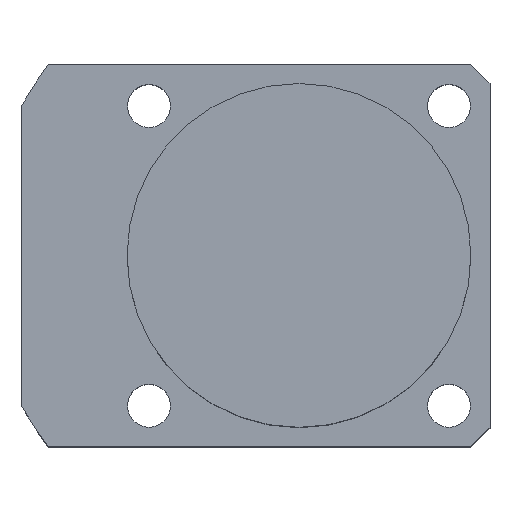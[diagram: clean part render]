
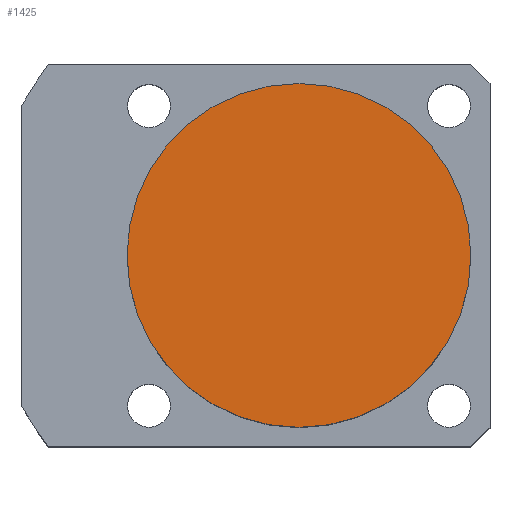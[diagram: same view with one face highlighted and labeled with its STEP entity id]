
A CAD part, top view. The second image highlights one B-rep face of the part: STEP entity #1425.
In plain terms, the highlighted planar face has unit normal (0, 0, 1).
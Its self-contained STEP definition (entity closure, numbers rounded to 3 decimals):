
#1367=CARTESIAN_POINT('',(-0.0,18.0,33.5));
#1368=VERTEX_POINT('',#1367);
#1375=CARTESIAN_POINT('',(18.0,0.0,33.5));
#1376=VERTEX_POINT('',#1375);
#1377=CARTESIAN_POINT('',(0.0,0.0,33.5));
#1378=DIRECTION('',(0.0,0.0,1.0));
#1379=DIRECTION('',(1.0,0.0,0.0));
#1380=AXIS2_PLACEMENT_3D('',#1377,#1378,#1379);
#1381=CIRCLE('',#1380,18.0);
#1382=EDGE_CURVE('no 1775',#1376,#1368,#1381,.T.);
#1384=CARTESIAN_POINT('',(-0.0,-18.0,33.5));
#1385=VERTEX_POINT('',#1384);
#1386=CARTESIAN_POINT('',(0.0,0.0,33.5));
#1387=DIRECTION('',(0.0,0.0,1.0));
#1388=DIRECTION('',(1.0,0.0,0.0));
#1389=AXIS2_PLACEMENT_3D('',#1386,#1387,#1388);
#1390=CIRCLE('',#1389,18.0);
#1391=EDGE_CURVE('no 1781',#1385,#1376,#1390,.T.);
#1409=ORIENTED_EDGE('',*,*,#1382,.T.);
#1410=CARTESIAN_POINT('',(0.0,0.0,33.5));
#1411=DIRECTION('',(0.0,0.0,1.0));
#1412=DIRECTION('',(1.0,0.0,0.0));
#1413=AXIS2_PLACEMENT_3D('',#1410,#1411,#1412);
#1414=CIRCLE('',#1413,18.0);
#1415=EDGE_CURVE('no 1798',#1368,#1385,#1414,.T.);
#1416=ORIENTED_EDGE('',*,*,#1415,.T.);
#1417=ORIENTED_EDGE('',*,*,#1391,.T.);
#1418=EDGE_LOOP('',(#1409,#1416,#1417));
#1419=FACE_OUTER_BOUND('',#1418,.T.);
#1420=CARTESIAN_POINT('',(0.0,0.0,33.5));
#1421=DIRECTION('',(0.0,0.0,1.0));
#1422=DIRECTION('',(1.0,0.0,0.0));
#1423=AXIS2_PLACEMENT_3D('',#1420,#1421,#1422);
#1424=PLANE('',#1423);
#1425=ADVANCED_FACE('no 1791',(#1419),#1424,.T.);
